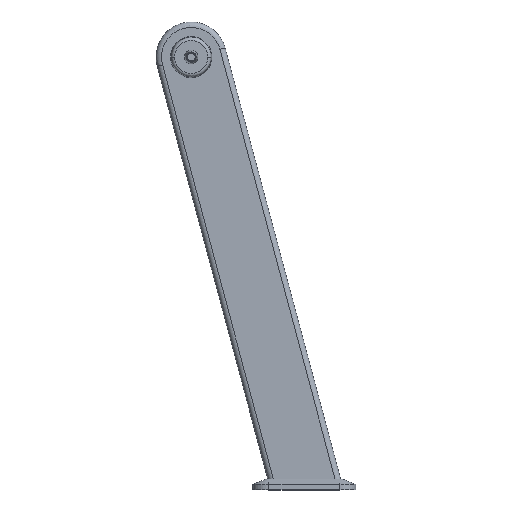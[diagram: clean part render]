
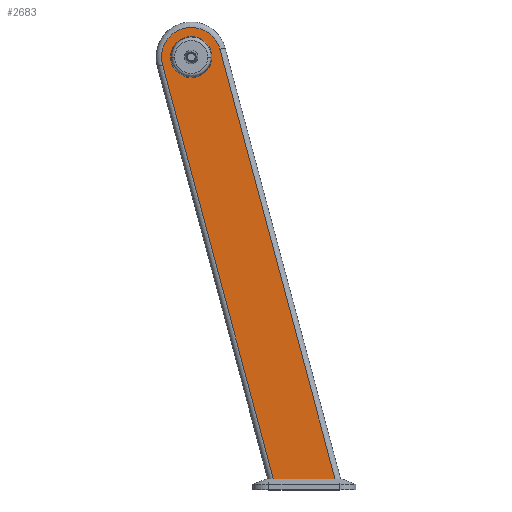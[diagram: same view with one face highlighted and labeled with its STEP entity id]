
A CAD part, top view. The second image highlights one B-rep face of the part: STEP entity #2683.
In plain terms, the highlighted planar face has unit normal (0, 0, 1).
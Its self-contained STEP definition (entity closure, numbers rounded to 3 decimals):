
#53 = EDGE_CURVE ( 'NONE', #142, #3086, #109, .T. ) ;
#74 = VERTEX_POINT ( 'NONE', #2600 ) ;
#109 = LINE ( 'NONE', #1748, #2236 ) ;
#142 = VERTEX_POINT ( 'NONE', #1820 ) ;
#183 = ORIENTED_EDGE ( 'NONE', *, *, #2105, .T. ) ;
#319 = DIRECTION ( 'NONE',  ( 0., 0., 1. ) ) ;
#387 = CARTESIAN_POINT ( 'NONE',  ( -38., 0., 31.25 ) ) ;
#435 = VERTEX_POINT ( 'NONE', #387 ) ;
#737 = AXIS2_PLACEMENT_3D ( 'NONE', #1848, #319, #2100 ) ;
#767 = ORIENTED_EDGE ( 'NONE', *, *, #53, .T. ) ;
#839 = CARTESIAN_POINT ( 'NONE',  ( 156.726, -797.412, 31.25 ) ) ;
#873 = DIRECTION ( 'NONE',  ( -0.259, 0.966, 0. ) ) ;
#909 = CARTESIAN_POINT ( 'NONE',  ( 53.126, 14.235, 31.25 ) ) ;
#1016 = AXIS2_PLACEMENT_3D ( 'NONE', #2731, #3204, #1743 ) ;
#1019 = EDGE_CURVE ( 'NONE', #1330, #2081, #2714, .T. ) ;
#1050 = DIRECTION ( 'NONE',  ( 0., 0., 1. ) ) ;
#1140 = DIRECTION ( 'NONE',  ( 0., 0., 1. ) ) ;
#1145 = CIRCLE ( 'NONE', #1386, 55. ) ;
#1179 = FACE_OUTER_BOUND ( 'NONE', #1423, .T. ) ;
#1330 = VERTEX_POINT ( 'NONE', #1497 ) ;
#1335 = ORIENTED_EDGE ( 'NONE', *, *, #2436, .F. ) ;
#1351 = ORIENTED_EDGE ( 'NONE', *, *, #1019, .T. ) ;
#1386 = AXIS2_PLACEMENT_3D ( 'NONE', #2638, #1140, #2876 ) ;
#1395 = VECTOR ( 'NONE', #2604, 1000. ) ;
#1423 = EDGE_LOOP ( 'NONE', ( #767, #183, #1351, #1764 ) ) ;
#1497 = CARTESIAN_POINT ( 'NONE',  ( -53.126, -14.235, 31.25 ) ) ;
#1727 = VECTOR ( 'NONE', #2393, 1000. ) ;
#1743 = DIRECTION ( 'NONE',  ( 1., 0., 0. ) ) ;
#1748 = CARTESIAN_POINT ( 'NONE',  ( 53.126, 14.235, 31.25 ) ) ;
#1764 = ORIENTED_EDGE ( 'NONE', *, *, #3012, .T. ) ;
#1807 = CIRCLE ( 'NONE', #737, 38. ) ;
#1820 = CARTESIAN_POINT ( 'NONE',  ( 265.941, -780., 31.25 ) ) ;
#1848 = CARTESIAN_POINT ( 'NONE',  ( 0., 0., 31.25 ) ) ;
#1895 = EDGE_CURVE ( 'NONE', #435, #74, #2997, .T. ) ;
#2048 = EDGE_LOOP ( 'NONE', ( #1335, #2126 ) ) ;
#2081 = VERTEX_POINT ( 'NONE', #2133 ) ;
#2100 = DIRECTION ( 'NONE',  ( 1., 0., 0. ) ) ;
#2105 = EDGE_CURVE ( 'NONE', #3086, #1330, #1145, .T. ) ;
#2126 = ORIENTED_EDGE ( 'NONE', *, *, #1895, .F. ) ;
#2133 = CARTESIAN_POINT ( 'NONE',  ( 152.06, -780., 31.25 ) ) ;
#2236 = VECTOR ( 'NONE', #873, 1000. ) ;
#2393 = DIRECTION ( 'NONE',  ( 1., 0., 0. ) ) ;
#2436 = EDGE_CURVE ( 'NONE', #74, #435, #1807, .T. ) ;
#2438 = FACE_BOUND ( 'NONE', #2048, .T. ) ;
#2454 = CARTESIAN_POINT ( 'NONE',  ( 0., -780., 31.25 ) ) ;
#2466 = LINE ( 'NONE', #2454, #1727 ) ;
#2483 = PLANE ( 'NONE',  #1016 ) ;
#2550 = CARTESIAN_POINT ( 'NONE',  ( 0., 0., 31.25 ) ) ;
#2600 = CARTESIAN_POINT ( 'NONE',  ( 38., 0., 31.25 ) ) ;
#2604 = DIRECTION ( 'NONE',  ( 0.259, -0.966, 0. ) ) ;
#2638 = CARTESIAN_POINT ( 'NONE',  ( 0., 0., 31.25 ) ) ;
#2683 = ADVANCED_FACE ( 'NONE', ( #1179, #2438 ), #2483, .T. ) ;
#2714 = LINE ( 'NONE', #839, #1395 ) ;
#2731 = CARTESIAN_POINT ( 'NONE',  ( 0., 0., 31.25 ) ) ;
#2792 = DIRECTION ( 'NONE',  ( 1., 0., 0. ) ) ;
#2876 = DIRECTION ( 'NONE',  ( 1., 0., 0. ) ) ;
#2986 = AXIS2_PLACEMENT_3D ( 'NONE', #2550, #1050, #2792 ) ;
#2997 = CIRCLE ( 'NONE', #2986, 38. ) ;
#3012 = EDGE_CURVE ( 'NONE', #2081, #142, #2466, .T. ) ;
#3086 = VERTEX_POINT ( 'NONE', #909 ) ;
#3204 = DIRECTION ( 'NONE',  ( 0., 0., 1. ) ) ;
